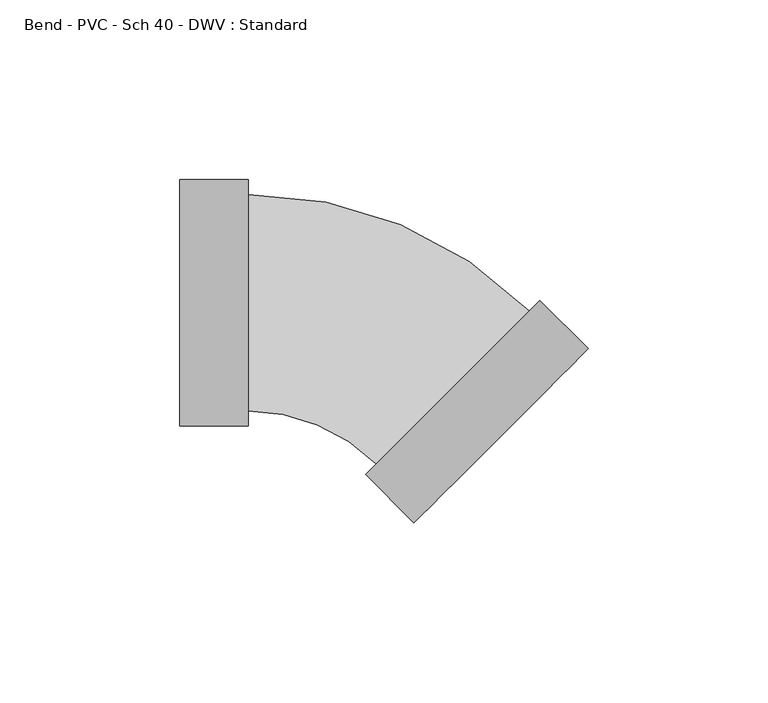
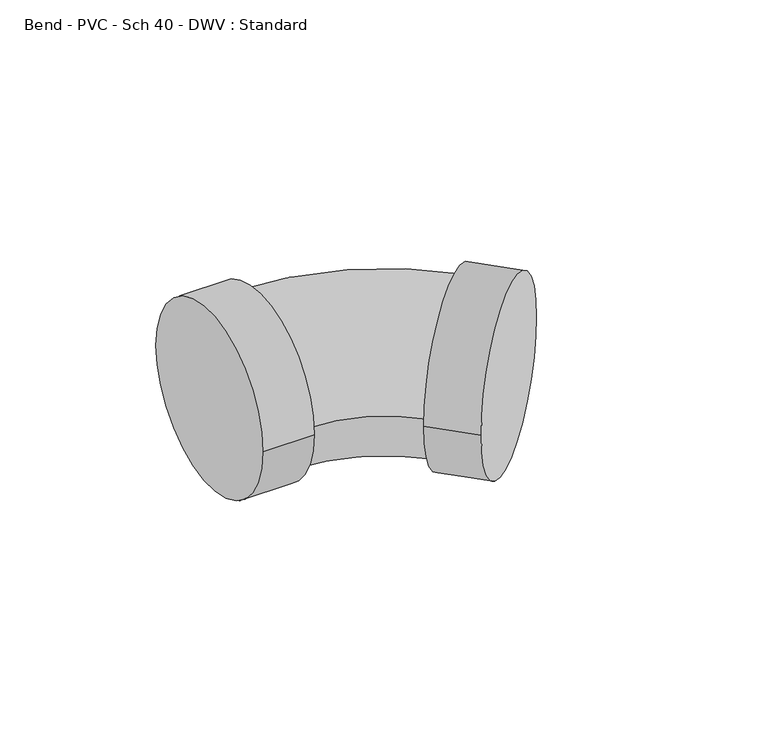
"""IFC4 building model written with IfcOpenShell, lengths in millimetres: pipe fitting geometry, Bend - PVC - Sch 40 - DWV : Standard."""

from ifc_helpers import new_model, si_unit, point, frame, origin, place, context, project, spatial, circle_curve, ellipse_curve, trimmed, source, transform, mapped, element, save
from ifc_brep_helpers import plane_surface, cylinder_surface, revolved_surface, advanced_brep


def bend_pvc_sch_40_dwv_standard_b7f24270(model_context):
    return source(origin(), model_context, "Body", "AdvancedBrep", [
        advanced_brep(
        [(-52.4002, 34.3154, 0.0), (-52.4002, -34.3154, 0.0), (-33.3502, 34.3154, 0.0), (-33.3502, -34.3154, 0.0), (-33.3502, 30.1625, 0.0), (-33.3502, -30.1625, 0.0), (2.2540428, -44.9102609, 0.0), (44.9102608, -2.2540458, 0.0), (47.8468046, 0.6824978, 0.0), (-0.6825011, -47.8468046, 0.0), (61.3171884, -12.7878868, 0.0), (12.7878826, -61.3171892, 0.0)],
        [
            (0, 1, circle_curve(frame((-52.4002, 0.0, 0.0), z_axis=(-1.0, 0.0, 0.0), x_axis=(0.0, -1.0, 0.0)), 34.3154)),
            (1, 0, circle_curve(frame((-52.4002, 0.0, 0.0), z_axis=(-1.0, 0.0, 0.0), x_axis=(0.0, -1.0, 0.0)), 34.3154)),
            (2, 3, circle_curve(frame((-33.3502, 0.0, 0.0), z_axis=(1.0, 0.0, 0.0), x_axis=(0.0, -1.0, 0.0)), 34.3154)),
            (3, 2, circle_curve(frame((-33.3502, 0.0, 0.0), z_axis=(1.0, 0.0, 0.0), x_axis=(0.0, -1.0, 0.0)), 34.3154)),
            (4, 5, circle_curve(frame((-33.3502, 0.0, 0.0), z_axis=(-1.0, 0.0, 0.0), x_axis=(0.0, -1.0, 0.0)), 30.1625)),
            (5, 4, circle_curve(frame((-33.3502, 0.0, 0.0), z_axis=(-1.0, 0.0, 0.0), x_axis=(0.0, -1.0, 0.0)), 30.1625)),
            (1, 3),
            (2, 0),
            (6, 7, circle_curve(frame((23.5821518, -23.5821534, 0.0), z_axis=(-0.7071067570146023, 0.7071068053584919, 0.0), x_axis=(-0.7071068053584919, -0.7071067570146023, 0.0)), 30.1625)),
            (7, 4, circle_curve(frame((-33.3502, -80.5145013, 0.0), z_axis=(0.0, 0.0, 1.0), x_axis=(0.0, 1.0, 0.0)), 110.6770013)),
            (5, 6, circle_curve(frame((-33.3502, -80.5145013, 0.0), z_axis=(0.0, 0.0, -1.0), x_axis=(0.0, 1.0, 0.0)), 50.3520013)),
            (7, 6, circle_curve(frame((23.5821518, -23.5821534, 0.0), z_axis=(-0.7071067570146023, 0.7071068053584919, 0.0), x_axis=(-0.7071068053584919, -0.7071067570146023, 0.0)), 30.1625)),
            (8, 9, circle_curve(frame((23.5821518, -23.5821534, 0.0), z_axis=(-0.7071067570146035, 0.7071068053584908, 0.0), x_axis=(-0.7071068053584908, -0.7071067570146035, 0.0)), 34.3154)),
            (9, 8, circle_curve(frame((23.5821518, -23.5821534, 0.0), z_axis=(-0.7071067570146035, 0.7071068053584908, 0.0), x_axis=(-0.7071068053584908, -0.7071067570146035, 0.0)), 34.3154)),
            (10, 11, circle_curve(frame((37.0525355, -37.052538, 0.0), z_axis=(0.7071067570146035, -0.7071068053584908, 0.0), x_axis=(-0.7071068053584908, -0.7071067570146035, 0.0)), 34.3154)),
            (11, 10, circle_curve(frame((37.0525355, -37.052538, 0.0), z_axis=(0.7071067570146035, -0.7071068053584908, 0.0), x_axis=(-0.7071068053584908, -0.7071067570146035, 0.0)), 34.3154)),
            (9, 11),
            (10, 8),
        ],
        [
            plane_surface(frame((-52.4002, 0.0, 0.0), z_axis=(-1.0, 0.0, 0.0), x_axis=(0.0, 0.0, 1.0))),
            plane_surface(frame((-33.3502, 0.0, 0.0), z_axis=(1.0, 0.0, 0.0), x_axis=(0.0, 0.0, 1.0))),
            cylinder_surface(frame((-52.4002, 0.0, 0.0), z_axis=(-1.0, 0.0, 0.0), x_axis=(0.0, -1.0, 0.0)), 34.3154),
            revolved_surface(trimmed(ellipse_curve(frame((-33.3502, 0.0, 0.0), z_axis=(1.0, 0.0, 0.0), x_axis=(0.0, -1.0, 0.0)), 30.1625, 30.1625), [point((-33.3502, 30.1625, 0.0))], [point((-33.3502, -30.1625, 0.0))], True, "CARTESIAN"), (-33.3502, -80.5145013, 0.0), (0.0, 0.0, 1.0)),
            revolved_surface(trimmed(ellipse_curve(frame((-33.3502, 0.0, 0.0), z_axis=(1.0, 0.0, 0.0), x_axis=(0.0, -1.0, 0.0)), 30.1625, 30.1625), [point((-33.3502, -30.1625, 0.0))], [point((-33.3502, 30.1625, 0.0))], True, "CARTESIAN"), (-33.3502, -80.5145013, 0.0), (0.0, 0.0, 1.0)),
            plane_surface(frame((23.5821518, -23.5821534, 0.0), z_axis=(-0.7071067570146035, 0.7071068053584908, 0.0), x_axis=(0.0, 0.0, 1.0))),
            plane_surface(frame((37.0525355, -37.052538, 0.0), z_axis=(0.7071067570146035, -0.7071068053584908, 0.0), x_axis=(0.0, 0.0, 1.0))),
            cylinder_surface(frame((23.5821518, -23.5821534, 0.0), z_axis=(-0.7071067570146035, 0.7071068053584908, 0.0), x_axis=(-0.7071068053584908, -0.7071067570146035, 0.0)), 34.3154),
        ],
        [
            (0, [[1, 2]]),
            (1, [[3, 4], [5, 6]]),
            (2, [[7, -3, 8, -2]]),
            (2, [[-8, -4, -7, -1]]),
            (3, [[9, 10, -6, 11]]),
            (4, [[-5, -10, 12, -11]]),
            (5, [[13, 14], [-12, -9]]),
            (6, [[15, 16]]),
            (7, [[17, -15, 18, -14]]),
            (7, [[-18, -16, -17, -13]]),
        ],
    ),
    ])


if __name__ == "__main__":
    model = new_model("IFC4")
    model_context = context("Model", 3, world=origin())
    ifc_project = project(units=[si_unit("LENGTHUNIT", "METRE", prefix="MILLI")], contexts=[model_context])
    site = spatial("IfcSite", under=ifc_project)
    building = spatial("IfcBuilding", under=site)
    placement = place(None, origin())
    bend_pvc_sch_40_dwv_standard_shape = bend_pvc_sch_40_dwv_standard_b7f24270(model_context)
    element("IfcPipeFitting", 1, ObjectType="Bend - PVC - Sch 40 - DWV : Standard", at=placement, inside=building, context=model_context, shape_type="MappedRepresentation", body=[
        mapped(bend_pvc_sch_40_dwv_standard_shape, transform((0.0, 0.0, 0.0), x_axis=(1.0, 0.0, 0.0), y_axis=(0.0, 1.0, 0.0), z_axis=(0.0, 0.0, 1.0))),
    ])
    save(model, "model.ifc")
